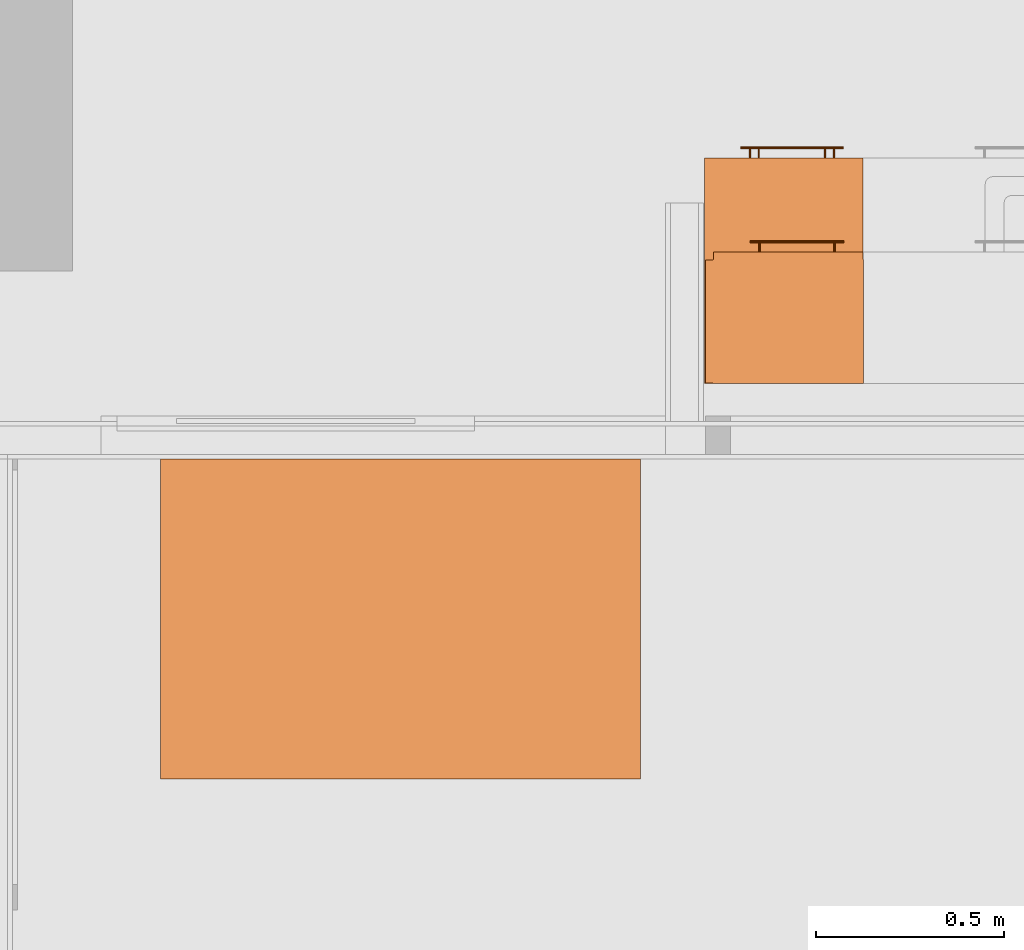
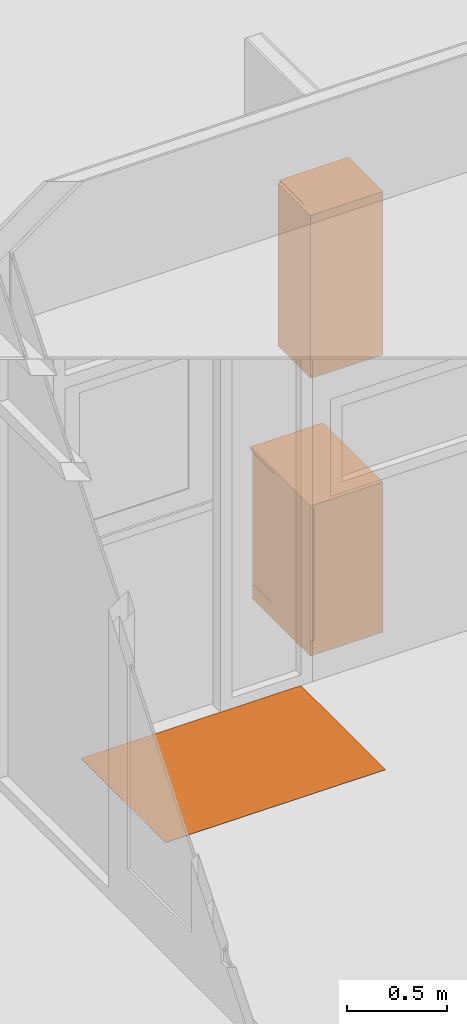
# One storey, part 156 of 167: 3 proxies.
"""IFC2X3 building model written with IfcOpenShell, lengths in millimetres."""

from ifc_helpers import new_model, entity, si_unit, converted_unit, derived_unit, money_unit, direction, frame, origin_with_axes, place, context, subcontext, project, spatial, open_shell, faceted_brep, surface_model, material, type_object, element, save


model = new_model("IFC2X3")

# Units and contexts
model_context = context("Model", 3, precision=0.01, world=origin_with_axes(), true_north=direction((0.0, 1.0)))
plan_context = context("Plan", 3, precision=0.01, world=origin_with_axes(), true_north=direction((0.0, 1.0)))
body_context = subcontext(model_context, "Body", "Model", "MODEL_VIEW")
ifc_project = project(units=[si_unit("LENGTHUNIT", "METRE", prefix="MILLI"), si_unit("AREAUNIT", "SQUARE_METRE"), si_unit("VOLUMEUNIT", "CUBIC_METRE"), converted_unit("PLANEANGLEUNIT", "DEGREE", entity("IfcPlaneAngleMeasure", 0.0174532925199), si_unit("PLANEANGLEUNIT", "RADIAN"), dimensions=[0, 0, 0, 0, 0, 0, 0]), si_unit("SOLIDANGLEUNIT", "STERADIAN"), money_unit("EUR"), converted_unit("TIMEUNIT", "Year", entity("IfcTimeMeasure", 31556926.0), si_unit("TIMEUNIT", "SECOND"), dimensions=[0, 0, 1, 0, 0, 0, 0]), si_unit("MASSUNIT", "GRAM", prefix="KILO"), si_unit("THERMODYNAMICTEMPERATUREUNIT", "DEGREE_CELSIUS"), si_unit("LUMINOUSINTENSITYUNIT", "LUMEN"), si_unit("ENERGYUNIT", "JOULE", prefix="MEGA"), derived_unit("THERMALCONDUCTANCEUNIT", [(si_unit("POWERUNIT", "WATT"), 1), (si_unit("LENGTHUNIT", "METRE"), -1), (si_unit("THERMODYNAMICTEMPERATUREUNIT", "KELVIN"), -1)]), derived_unit("SPECIFICHEATCAPACITYUNIT", [(si_unit("ENERGYUNIT", "JOULE"), 1), (si_unit("MASSUNIT", "GRAM", prefix="KILO"), -1), (si_unit("THERMODYNAMICTEMPERATUREUNIT", "KELVIN"), -1)]), derived_unit("MASSDENSITYUNIT", [(si_unit("MASSUNIT", "GRAM", prefix="KILO"), 1), (si_unit("VOLUMEUNIT", "CUBIC_METRE"), -1)])], contexts=[model_context, plan_context])

# Site, building, storey
site_placement = place(None, origin_with_axes())
site = spatial("IfcSite", under=ifc_project, at=site_placement, Name="Site", CompositionType="ELEMENT")
building_placement = place(site_placement, origin_with_axes())
building = spatial("IfcBuilding", under=site, at=building_placement, Name="Naam gebouw", CompositionType="ELEMENT")
storey_placement = place(building_placement, origin_with_axes())
storey = spatial("IfcBuildingStorey", under=building, at=storey_placement, Name="Begane grond", CompositionType="ELEMENT", Elevation=0.0)

# Proxies
building_element_proxy_type_1 = type_object("IfcBuildingElementProxyType", Name="Kast basis 1D 24", PredefinedType="NOTDEFINED")
proxy_1_placement = place(storey_placement, frame((26403.3441389, 42450.0, 0.0), z_axis=(0.0, 0.0, 1.0), x_axis=(-1.0, 0.0, 0.0)))
element("IfcBuildingElementProxy", 1, at=proxy_1_placement, inside=storey, type_object=building_element_proxy_type_1, Name="__Object-x", context=body_context, shape_type="SurfaceModel", body=[
    faceted_brep([(-40.0, 20.0, 760.0), (-40.0, 20.0, 780.0), (-400.0, 20.0, 780.0), (-400.0, 20.0, 760.0), (-40.0, 580.0, 760.0), (-40.0, 580.0, 780.0), (-400.0, 580.0, 780.0), (-400.0, 580.0, 760.0)], [[[0, 1, 2, 3]], [[4, 5, 1, 0]], [[1, 5, 6, 2]], [[3, 2, 6, 7]], [[0, 3, 7, 4]], [[7, 6, 5, 4]]]),
    faceted_brep([(0.0, 20.0, 0.0), (0.0, 20.0, 90.0), (-420.0, 20.0, 90.0), (-420.0, 20.0, 0.0), (0.0, 600.0, 0.0), (0.0, 600.0, 90.0), (-420.0, 600.0, 90.0), (-420.0, 600.0, 0.0)], [[[0, 1, 2, 3]], [[4, 5, 1, 0]], [[1, 5, 6, 2]], [[3, 2, 6, 7]], [[0, 3, 7, 4]], [[7, 6, 5, 4]]]),
    faceted_brep([(-20.0, 20.0, 880.0), (-20.0, 20.0, 900.0), (-40.0, 20.0, 900.0), (-40.0, 20.0, 880.0), (-20.0, 600.0, 880.0), (-20.0, 600.0, 900.0), (-40.0, 600.0, 900.0), (-400.0, 600.0, 900.0), (-420.0, 600.0, 900.0), (-420.0, 20.0, 900.0), (-400.0, 20.0, 900.0), (-400.0, 20.0, 880.0), (-420.0, 20.0, 880.0), (-420.0, 600.0, 880.0), (-400.0, 600.0, 880.0), (-40.0, 600.0, 880.0)], [[[0, 1, 2, 3]], [[4, 5, 1, 0]], [[1, 5, 6, 7, 8, 9, 10, 2]], [[3, 2, 10, 11]], [[0, 3, 11, 12, 13, 14, 15, 4]], [[15, 6, 5, 4]], [[14, 7, 6, 15]], [[13, 8, 7, 14]], [[12, 9, 8, 13]], [[11, 10, 9, 12]]]),
    faceted_brep([(-20.0, 20.0, 90.0), (-20.0, 20.0, 110.0), (-40.0, 20.0, 110.0), (-40.0, 20.0, 90.0), (-20.0, 600.0, 90.0), (-20.0, 600.0, 110.0), (-40.0, 600.0, 110.0), (-400.0, 600.0, 110.0), (-420.0, 600.0, 110.0), (-420.0, 20.0, 110.0), (-400.0, 20.0, 110.0), (-400.0, 20.0, 90.0), (-420.0, 20.0, 90.0), (-420.0, 600.0, 90.0), (-400.0, 600.0, 90.0), (-40.0, 600.0, 90.0)], [[[0, 1, 2, 3]], [[4, 5, 1, 0]], [[1, 5, 6, 7, 8, 9, 10, 2]], [[3, 2, 10, 11]], [[0, 3, 11, 12, 13, 14, 15, 4]], [[15, 6, 5, 4]], [[14, 7, 6, 15]], [[13, 8, 7, 14]], [[12, 9, 8, 13]], [[11, 10, 9, 12]]]),
    faceted_brep([(-20.0, 20.0, 110.0), (-20.0, 20.0, 880.0), (-40.0, 20.0, 880.0), (-40.0, 20.0, 110.0), (-20.0, 600.0, 110.0), (-20.0, 600.0, 880.0), (-420.0, 600.0, 880.0), (-420.0, 20.0, 880.0), (-400.0, 20.0, 880.0), (-400.0, 580.0, 880.0), (-40.0, 580.0, 880.0), (-40.0, 580.0, 110.0), (-400.0, 580.0, 110.0), (-400.0, 20.0, 110.0), (-420.0, 20.0, 110.0), (-420.0, 600.0, 110.0)], [[[0, 1, 2, 3]], [[4, 5, 1, 0]], [[1, 5, 6, 7, 8, 9, 10, 2]], [[3, 2, 10, 11]], [[0, 3, 11, 12, 13, 14, 15, 4]], [[15, 6, 5, 4]], [[14, 7, 6, 15]], [[13, 8, 7, 14]], [[12, 9, 8, 13]], [[11, 10, 9, 12]]]),
    faceted_brep([(-400.0, 20.0, 410.0), (-400.0, 20.0, 430.0), (-400.0, 580.0, 430.0), (-400.0, 580.0, 410.0), (-40.0, 20.0, 410.0), (-40.0, 20.0, 430.0), (-40.0, 580.0, 430.0), (-40.0, 580.0, 410.0)], [[[0, 1, 2, 3]], [[4, 5, 1, 0]], [[1, 5, 6, 2]], [[3, 2, 6, 7]], [[0, 3, 7, 4]], [[7, 6, 5, 4]]]),
    faceted_brep([(0.0, 0.0, 900.0), (0.0, 0.0, 920.0), (-420.0, 0.0, 920.0), (-420.0, 0.0, 900.0), (0.0, 600.0, 900.0), (0.0, 600.0, 920.0), (-420.0, 600.0, 920.0), (-420.0, 600.0, 900.0)], [[[0, 1, 2, 3]], [[4, 5, 1, 0]], [[1, 5, 6, 2]], [[3, 2, 6, 7]], [[0, 3, 7, 4]], [[7, 6, 5, 4]]]),
    faceted_brep([(-21.5, 20.0, 771.5), (-21.5, 0.0, 771.5), (-418.5, 0.0, 771.5), (-418.5, 20.0, 771.5), (-21.5, 20.0, 898.5), (-21.5, 0.0, 898.5), (-418.5, 0.0, 898.5), (-418.5, 20.0, 898.5)], [[[0, 1, 2, 3]], [[4, 5, 1, 0]], [[1, 5, 6, 2]], [[3, 2, 6, 7]], [[0, 3, 7, 4]], [[7, 6, 5, 4]]]),
    faceted_brep([(-95.0, -28.1480502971, 832.228361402), (-95.0, -27.0, 832.0), (-95.0, -25.8519497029, 832.228361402), (-95.0, -24.8786796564, 832.878679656), (-95.0, -24.2283614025, 833.851949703), (-95.0, -24.0, 835.0), (-95.0, -24.2283614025, 836.148050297), (-95.0, -24.8786796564, 837.121320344), (-95.0, -25.8519497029, 837.771638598), (-95.0, -27.0, 838.0), (-95.0, -28.1480502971, 837.771638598), (-95.0, -29.1213203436, 837.121320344), (-95.0, -29.7716385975, 836.148050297), (-95.0, -30.0, 835.0), (-95.0, -29.7716385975, 833.851949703), (-95.0, -29.1213203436, 832.878679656), (-345.0, -28.1480502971, 832.228361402), (-345.0, -27.0, 832.0), (-345.0, -25.8519497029, 832.228361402), (-345.0, -24.8786796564, 832.878679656), (-345.0, -24.2283614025, 833.851949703), (-345.0, -24.0, 835.0), (-345.0, -24.2283614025, 836.148050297), (-345.0, -24.8786796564, 837.121320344), (-345.0, -25.8519497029, 837.771638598), (-345.0, -27.0, 838.0), (-345.0, -28.1480502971, 837.771638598), (-345.0, -29.1213203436, 837.121320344), (-345.0, -29.7716385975, 836.148050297), (-345.0, -30.0, 835.0), (-345.0, -29.7716385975, 833.851949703), (-345.0, -29.1213203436, 832.878679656)], [[[0, 1, 2, 3, 4, 5, 6, 7, 8, 9, 10, 11, 12, 13, 14, 15]], [[0, 16, 17, 1]], [[1, 17, 18, 2]], [[2, 18, 19, 3]], [[3, 19, 20, 4]], [[4, 20, 21, 5]], [[5, 21, 22, 6]], [[6, 22, 23, 7]], [[7, 23, 24, 8]], [[8, 24, 25, 9]], [[9, 25, 26, 10]], [[10, 26, 27, 11]], [[11, 27, 28, 12]], [[12, 28, 29, 13]], [[13, 29, 30, 14]], [[14, 30, 31, 15]], [[15, 31, 16, 0]], [[16, 31, 30, 29, 28, 27, 26, 25, 24, 23, 22, 21, 20, 19, 18, 17]]]),
    surface_model("IfcShellBasedSurfaceModel", [(-117.690301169, -24.156637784, 834.043291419), (-117.690301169, 0.0, 834.043291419), (-117.5, 0.0, 835.0), (-117.5, -24.0, 835.0), (-118.232233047, -24.5761600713, 833.232233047), (-118.232233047, 0.0, 833.232233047), (-119.043291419, 0.0, 832.690301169), (-120.0, 0.0, 832.5), (-120.956708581, 0.0, 832.690301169), (-121.767766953, 0.0, 833.232233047), (-122.309698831, 0.0, 834.043291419), (-122.5, 0.0, 835.0), (-122.309698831, 0.0, 835.956708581), (-121.767766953, 0.0, 836.767766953), (-120.956708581, 0.0, 837.309698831), (-120.0, 0.0, 837.5), (-119.043291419, 0.0, 837.309698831), (-118.232233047, 0.0, 836.767766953), (-117.690301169, 0.0, 835.956708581), (-117.690301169, -24.156637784, 835.956708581), (-119.043291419, -25.0855049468, 832.690301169), (-120.0, -25.3416876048, 832.5), (-120.956708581, -25.0855049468, 832.690301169), (-121.767766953, -24.5761600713, 833.232233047), (-122.309698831, -24.156637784, 834.043291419), (-122.5, -24.0, 835.0), (-122.309698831, -24.156637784, 835.956708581), (-121.767766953, -24.5761600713, 836.767766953), (-120.956708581, -25.0855049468, 837.309698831), (-120.0, -25.3416876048, 837.5), (-119.043291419, -25.0855049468, 837.309698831), (-118.232233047, -24.5761600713, 836.767766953)], [open_shell([[[0, 1, 2, 3]], [[4, 5, 1, 0]], [[1, 5, 6, 7, 8, 9, 10, 11, 12, 13, 14, 15, 16, 17, 18, 2]], [[3, 2, 18, 19]], [[20, 6, 5, 4]], [[21, 7, 6, 20]], [[22, 8, 7, 21]], [[23, 9, 8, 22]], [[24, 10, 9, 23]], [[25, 11, 10, 24]], [[26, 12, 11, 25]], [[27, 13, 12, 26]], [[28, 14, 13, 27]], [[29, 15, 14, 28]], [[30, 16, 15, 29]], [[31, 17, 16, 30]], [[19, 18, 17, 31]]])]),
    surface_model("IfcShellBasedSurfaceModel", [(-317.690301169, -24.156637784, 834.043291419), (-317.690301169, 0.0, 834.043291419), (-317.5, 0.0, 835.0), (-317.5, -24.0, 835.0), (-318.232233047, -24.5761600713, 833.232233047), (-318.232233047, 0.0, 833.232233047), (-319.043291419, 0.0, 832.690301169), (-320.0, 0.0, 832.5), (-320.956708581, 0.0, 832.690301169), (-321.767766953, 0.0, 833.232233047), (-322.309698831, 0.0, 834.043291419), (-322.5, 0.0, 835.0), (-322.309698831, 0.0, 835.956708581), (-321.767766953, 0.0, 836.767766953), (-320.956708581, 0.0, 837.309698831), (-320.0, 0.0, 837.5), (-319.043291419, 0.0, 837.309698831), (-318.232233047, 0.0, 836.767766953), (-317.690301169, 0.0, 835.956708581), (-317.690301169, -24.156637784, 835.956708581), (-319.043291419, -25.0855049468, 832.690301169), (-320.0, -25.3416876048, 832.5), (-320.956708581, -25.0855049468, 832.690301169), (-321.767766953, -24.5761600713, 833.232233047), (-322.309698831, -24.156637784, 834.043291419), (-322.5, -24.0, 835.0), (-322.309698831, -24.156637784, 835.956708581), (-321.767766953, -24.5761600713, 836.767766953), (-320.956708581, -25.0855049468, 837.309698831), (-320.0, -25.3416876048, 837.5), (-319.043291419, -25.0855049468, 837.309698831), (-318.232233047, -24.5761600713, 836.767766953)], [open_shell([[[0, 1, 2, 3]], [[4, 5, 1, 0]], [[1, 5, 6, 7, 8, 9, 10, 11, 12, 13, 14, 15, 16, 17, 18, 2]], [[3, 2, 18, 19]], [[20, 6, 5, 4]], [[21, 7, 6, 20]], [[22, 8, 7, 21]], [[23, 9, 8, 22]], [[24, 10, 9, 23]], [[25, 11, 10, 24]], [[26, 12, 11, 25]], [[27, 13, 12, 26]], [[28, 14, 13, 27]], [[29, 15, 14, 28]], [[30, 16, 15, 29]], [[31, 17, 16, 30]], [[19, 18, 17, 31]]])]),
    faceted_brep([(-21.5, 20.0, 91.5), (-21.5, 0.0, 91.5), (-418.5, 0.0, 91.5), (-418.5, 20.0, 91.5), (-21.5, 20.0, 768.5), (-21.5, 0.0, 768.5), (-418.5, 0.0, 768.5), (-418.5, 20.0, 768.5)], [[[0, 1, 2, 3]], [[4, 5, 1, 0]], [[1, 5, 6, 2]], [[3, 2, 6, 7]], [[0, 3, 7, 4]], [[7, 6, 5, 4]]]),
    faceted_brep([(-118.5, -28.1480502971, 688.728361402), (-118.5, -27.0, 688.5), (-118.5, -25.8519497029, 688.728361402), (-118.5, -24.8786796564, 689.378679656), (-118.5, -24.2283614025, 690.351949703), (-118.5, -24.0, 691.5), (-118.5, -24.2283614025, 692.648050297), (-118.5, -24.8786796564, 693.621320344), (-118.5, -25.8519497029, 694.271638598), (-118.5, -27.0, 694.5), (-118.5, -28.1480502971, 694.271638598), (-118.5, -29.1213203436, 693.621320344), (-118.5, -29.7716385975, 692.648050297), (-118.5, -30.0, 691.5), (-118.5, -29.7716385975, 690.351949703), (-118.5, -29.1213203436, 689.378679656), (-368.5, -28.1480502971, 688.728361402), (-368.5, -27.0, 688.5), (-368.5, -25.8519497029, 688.728361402), (-368.5, -24.8786796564, 689.378679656), (-368.5, -24.2283614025, 690.351949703), (-368.5, -24.0, 691.5), (-368.5, -24.2283614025, 692.648050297), (-368.5, -24.8786796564, 693.621320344), (-368.5, -25.8519497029, 694.271638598), (-368.5, -27.0, 694.5), (-368.5, -28.1480502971, 694.271638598), (-368.5, -29.1213203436, 693.621320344), (-368.5, -29.7716385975, 692.648050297), (-368.5, -30.0, 691.5), (-368.5, -29.7716385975, 690.351949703), (-368.5, -29.1213203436, 689.378679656)], [[[0, 1, 2, 3, 4, 5, 6, 7, 8, 9, 10, 11, 12, 13, 14, 15]], [[0, 16, 17, 1]], [[1, 17, 18, 2]], [[2, 18, 19, 3]], [[3, 19, 20, 4]], [[4, 20, 21, 5]], [[5, 21, 22, 6]], [[6, 22, 23, 7]], [[7, 23, 24, 8]], [[8, 24, 25, 9]], [[9, 25, 26, 10]], [[10, 26, 27, 11]], [[11, 27, 28, 12]], [[12, 28, 29, 13]], [[13, 29, 30, 14]], [[14, 30, 31, 15]], [[15, 31, 16, 0]], [[16, 31, 30, 29, 28, 27, 26, 25, 24, 23, 22, 21, 20, 19, 18, 17]]]),
    surface_model("IfcShellBasedSurfaceModel", [(-141.190301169, -24.156637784, 690.543291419), (-141.190301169, 0.0, 690.543291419), (-141.0, 0.0, 691.5), (-141.0, -24.0, 691.5), (-141.732233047, -24.5761600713, 689.732233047), (-141.732233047, 0.0, 689.732233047), (-142.543291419, 0.0, 689.190301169), (-143.5, 0.0, 689.0), (-144.456708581, 0.0, 689.190301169), (-145.267766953, 0.0, 689.732233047), (-145.809698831, 0.0, 690.543291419), (-146.0, 0.0, 691.5), (-145.809698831, 0.0, 692.456708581), (-145.267766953, 0.0, 693.267766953), (-144.456708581, 0.0, 693.809698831), (-143.5, 0.0, 694.0), (-142.543291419, 0.0, 693.809698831), (-141.732233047, 0.0, 693.267766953), (-141.190301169, 0.0, 692.456708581), (-141.190301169, -24.156637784, 692.456708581), (-142.543291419, -25.0855049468, 689.190301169), (-143.5, -25.3416876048, 689.0), (-144.456708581, -25.0855049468, 689.190301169), (-145.267766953, -24.5761600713, 689.732233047), (-145.809698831, -24.156637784, 690.543291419), (-146.0, -24.0, 691.5), (-145.809698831, -24.156637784, 692.456708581), (-145.267766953, -24.5761600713, 693.267766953), (-144.456708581, -25.0855049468, 693.809698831), (-143.5, -25.3416876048, 694.0), (-142.543291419, -25.0855049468, 693.809698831), (-141.732233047, -24.5761600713, 693.267766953)], [open_shell([[[0, 1, 2, 3]], [[4, 5, 1, 0]], [[1, 5, 6, 7, 8, 9, 10, 11, 12, 13, 14, 15, 16, 17, 18, 2]], [[3, 2, 18, 19]], [[20, 6, 5, 4]], [[21, 7, 6, 20]], [[22, 8, 7, 21]], [[23, 9, 8, 22]], [[24, 10, 9, 23]], [[25, 11, 10, 24]], [[26, 12, 11, 25]], [[27, 13, 12, 26]], [[28, 14, 13, 27]], [[29, 15, 14, 28]], [[30, 16, 15, 29]], [[31, 17, 16, 30]], [[19, 18, 17, 31]]])]),
    surface_model("IfcShellBasedSurfaceModel", [(-341.190301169, -24.156637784, 690.543291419), (-341.190301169, 0.0, 690.543291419), (-341.0, 0.0, 691.5), (-341.0, -24.0, 691.5), (-341.732233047, -24.5761600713, 689.732233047), (-341.732233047, 0.0, 689.732233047), (-342.543291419, 0.0, 689.190301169), (-343.5, 0.0, 689.0), (-344.456708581, 0.0, 689.190301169), (-345.267766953, 0.0, 689.732233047), (-345.809698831, 0.0, 690.543291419), (-346.0, 0.0, 691.5), (-345.809698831, 0.0, 692.456708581), (-345.267766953, 0.0, 693.267766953), (-344.456708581, 0.0, 693.809698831), (-343.5, 0.0, 694.0), (-342.543291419, 0.0, 693.809698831), (-341.732233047, 0.0, 693.267766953), (-341.190301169, 0.0, 692.456708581), (-341.190301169, -24.156637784, 692.456708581), (-342.543291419, -25.0855049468, 689.190301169), (-343.5, -25.3416876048, 689.0), (-344.456708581, -25.0855049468, 689.190301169), (-345.267766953, -24.5761600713, 689.732233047), (-345.809698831, -24.156637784, 690.543291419), (-346.0, -24.0, 691.5), (-345.809698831, -24.156637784, 692.456708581), (-345.267766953, -24.5761600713, 693.267766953), (-344.456708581, -25.0855049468, 693.809698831), (-343.5, -25.3416876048, 694.0), (-342.543291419, -25.0855049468, 693.809698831), (-341.732233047, -24.5761600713, 693.267766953)], [open_shell([[[0, 1, 2, 3]], [[4, 5, 1, 0]], [[1, 5, 6, 7, 8, 9, 10, 11, 12, 13, 14, 15, 16, 17, 18, 2]], [[3, 2, 18, 19]], [[20, 6, 5, 4]], [[21, 7, 6, 20]], [[22, 8, 7, 21]], [[23, 9, 8, 22]], [[24, 10, 9, 23]], [[25, 11, 10, 24]], [[26, 12, 11, 25]], [[27, 13, 12, 26]], [[28, 14, 13, 27]], [[29, 15, 14, 28]], [[30, 16, 15, 29]], [[31, 17, 16, 30]], [[19, 18, 17, 31]]])]),
    faceted_brep([(-20.0, 598.5, 91.5), (0.0, 598.5, 91.5), (0.0, 21.5, 91.5), (-20.0, 21.5, 91.5), (-20.0, 598.5, 898.5), (0.0, 598.5, 898.5), (0.0, 21.5, 898.5), (-20.0, 21.5, 898.5)], [[[0, 1, 2, 3]], [[4, 5, 1, 0]], [[1, 5, 6, 2]], [[3, 2, 6, 7]], [[0, 3, 7, 4]], [[7, 6, 5, 4]]]),
])
ifc_material = material(Name="_TenW_43_A2 Forbo Impressa")
building_element_proxy_type_2 = type_object("IfcBuildingElementProxyType", Name="_TenW_43_A2 Forbo Impressa 2", PredefinedType="NOTDEFINED")
proxy_2_placement = place(storey_placement, frame((24958.3613252, 40800.0, 0.0), z_axis=(0.0, 0.0, 1.0), x_axis=(1.0, 0.0, 0.0)))
element("IfcBuildingElementProxy", 2, at=proxy_2_placement, inside=storey, type_object=building_element_proxy_type_2, material=ifc_material, Name="23__Vloer-x", context=body_context, shape_type="Brep", body=[
    faceted_brep([(0.0, 0.0, 2.0), (0.0, 0.0, 0.0), (1274.6386748, 0.0, 0.0), (1274.6386748, 0.0, 2.0), (0.0, 850.0, 2.0), (0.0, 850.0, 0.0), (1274.6386748, 850.0, 0.0), (1274.6386748, 850.0, 2.0)], [[[0, 1, 2, 3]], [[4, 5, 1, 0]], [[2, 1, 5, 6]], [[3, 2, 6, 7]], [[4, 0, 3, 7]], [[7, 6, 5, 4]]]),
])
building_element_proxy_type_3 = type_object("IfcBuildingElementProxyType", Name="Kast wand 1D 24", PredefinedType="NOTDEFINED")
proxy_3_placement = place(storey_placement, frame((26405.0000003, 42199.9999946, 200.07308756), z_axis=(0.0, 0.0, 1.0), x_axis=(-1.0, 0.0, 0.0)))
element("IfcBuildingElementProxy", 3, at=proxy_3_placement, inside=storey, type_object=building_element_proxy_type_3, Name="__Object-x", context=body_context, shape_type="SurfaceModel", body=[
    faceted_brep([(-20.0, 20.0, 2480.0), (-20.0, 20.0, 2500.0), (-40.0, 20.0, 2500.0), (-40.0, 20.0, 2480.0), (-20.0, 350.0, 2480.0), (-20.0, 350.0, 2500.0), (-40.0, 350.0, 2500.0), (-400.0, 350.0, 2500.0), (-420.0, 350.0, 2500.0), (-420.0, 20.0, 2500.0), (-400.0, 20.0, 2500.0), (-400.0, 20.0, 2480.0), (-420.0, 20.0, 2480.0), (-420.0, 350.0, 2480.0), (-400.0, 350.0, 2480.0), (-40.0, 350.0, 2480.0)], [[[0, 1, 2, 3]], [[4, 5, 1, 0]], [[1, 5, 6, 7, 8, 9, 10, 2]], [[3, 2, 10, 11]], [[0, 3, 11, 12, 13, 14, 15, 4]], [[15, 6, 5, 4]], [[14, 7, 6, 15]], [[13, 8, 7, 14]], [[12, 9, 8, 13]], [[11, 10, 9, 12]]]),
    faceted_brep([(-20.0, 20.0, 1500.0), (-20.0, 20.0, 1520.0), (-40.0, 20.0, 1520.0), (-40.0, 20.0, 1500.0), (-20.0, 350.0, 1500.0), (-20.0, 350.0, 1520.0), (-40.0, 350.0, 1520.0), (-400.0, 350.0, 1520.0), (-420.0, 350.0, 1520.0), (-420.0, 20.0, 1520.0), (-400.0, 20.0, 1520.0), (-400.0, 20.0, 1500.0), (-420.0, 20.0, 1500.0), (-420.0, 350.0, 1500.0), (-400.0, 350.0, 1500.0), (-40.0, 350.0, 1500.0)], [[[0, 1, 2, 3]], [[4, 5, 1, 0]], [[1, 5, 6, 7, 8, 9, 10, 2]], [[3, 2, 10, 11]], [[0, 3, 11, 12, 13, 14, 15, 4]], [[15, 6, 5, 4]], [[14, 7, 6, 15]], [[13, 8, 7, 14]], [[12, 9, 8, 13]], [[11, 10, 9, 12]]]),
    faceted_brep([(-20.0, 20.0, 1520.0), (-20.0, 20.0, 2480.0), (-40.0, 20.0, 2480.0), (-40.0, 20.0, 1520.0), (-20.0, 350.0, 1520.0), (-20.0, 350.0, 2480.0), (-420.0, 350.0, 2480.0), (-420.0, 20.0, 2480.0), (-400.0, 20.0, 2480.0), (-400.0, 330.0, 2480.0), (-40.0, 330.0, 2480.0), (-40.0, 330.0, 1520.0), (-400.0, 330.0, 1520.0), (-400.0, 20.0, 1520.0), (-420.0, 20.0, 1520.0), (-420.0, 350.0, 1520.0)], [[[0, 1, 2, 3]], [[4, 5, 1, 0]], [[1, 5, 6, 7, 8, 9, 10, 2]], [[3, 2, 10, 11]], [[0, 3, 11, 12, 13, 14, 15, 4]], [[15, 6, 5, 4]], [[14, 7, 6, 15]], [[13, 8, 7, 14]], [[12, 9, 8, 13]], [[11, 10, 9, 12]]]),
    faceted_brep([(-400.0, 20.0, 1980.0), (-400.0, 20.0, 2000.0), (-400.0, 330.0, 2000.0), (-400.0, 330.0, 1980.0), (-40.0, 20.0, 1980.0), (-40.0, 20.0, 2000.0), (-40.0, 330.0, 2000.0), (-40.0, 330.0, 1980.0)], [[[0, 1, 2, 3]], [[4, 5, 1, 0]], [[1, 5, 6, 2]], [[3, 2, 6, 7]], [[0, 3, 7, 4]], [[7, 6, 5, 4]]]),
    faceted_brep([(-21.5, 20.0, 1501.5), (-21.5, 0.0, 1501.5), (-418.5, 0.0, 1501.5), (-418.5, 20.0, 1501.5), (-21.5, 20.0, 2498.5), (-21.5, 0.0, 2498.5), (-418.5, 0.0, 2498.5), (-418.5, 20.0, 2498.5)], [[[0, 1, 2, 3]], [[4, 5, 1, 0]], [[1, 5, 6, 2]], [[3, 2, 6, 7]], [[0, 3, 7, 4]], [[7, 6, 5, 4]]]),
    faceted_brep([(-118.5, -28.1480502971, 1548.7283614), (-118.5, -27.0, 1548.5), (-118.5, -25.8519497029, 1548.7283614), (-118.5, -24.8786796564, 1549.37867966), (-118.5, -24.2283614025, 1550.3519497), (-118.5, -24.0, 1551.5), (-118.5, -24.2283614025, 1552.6480503), (-118.5, -24.8786796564, 1553.62132034), (-118.5, -25.8519497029, 1554.2716386), (-118.5, -27.0, 1554.5), (-118.5, -28.1480502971, 1554.2716386), (-118.5, -29.1213203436, 1553.62132034), (-118.5, -29.7716385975, 1552.6480503), (-118.5, -30.0, 1551.5), (-118.5, -29.7716385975, 1550.3519497), (-118.5, -29.1213203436, 1549.37867966), (-368.5, -28.1480502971, 1548.7283614), (-368.5, -27.0, 1548.5), (-368.5, -25.8519497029, 1548.7283614), (-368.5, -24.8786796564, 1549.37867966), (-368.5, -24.2283614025, 1550.3519497), (-368.5, -24.0, 1551.5), (-368.5, -24.2283614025, 1552.6480503), (-368.5, -24.8786796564, 1553.62132034), (-368.5, -25.8519497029, 1554.2716386), (-368.5, -27.0, 1554.5), (-368.5, -28.1480502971, 1554.2716386), (-368.5, -29.1213203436, 1553.62132034), (-368.5, -29.7716385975, 1552.6480503), (-368.5, -30.0, 1551.5), (-368.5, -29.7716385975, 1550.3519497), (-368.5, -29.1213203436, 1549.37867966)], [[[0, 1, 2, 3, 4, 5, 6, 7, 8, 9, 10, 11, 12, 13, 14, 15]], [[0, 16, 17, 1]], [[1, 17, 18, 2]], [[2, 18, 19, 3]], [[3, 19, 20, 4]], [[4, 20, 21, 5]], [[5, 21, 22, 6]], [[6, 22, 23, 7]], [[7, 23, 24, 8]], [[8, 24, 25, 9]], [[9, 25, 26, 10]], [[10, 26, 27, 11]], [[11, 27, 28, 12]], [[12, 28, 29, 13]], [[13, 29, 30, 14]], [[14, 30, 31, 15]], [[15, 31, 16, 0]], [[16, 31, 30, 29, 28, 27, 26, 25, 24, 23, 22, 21, 20, 19, 18, 17]]]),
    surface_model("IfcShellBasedSurfaceModel", [(-141.190301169, -24.156637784, 1550.54329142), (-141.190301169, 0.0, 1550.54329142), (-141.0, 0.0, 1551.5), (-141.0, -24.0, 1551.5), (-141.732233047, -24.5761600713, 1549.73223305), (-141.732233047, 0.0, 1549.73223305), (-142.543291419, 0.0, 1549.19030117), (-143.5, 0.0, 1549.0), (-144.456708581, 0.0, 1549.19030117), (-145.267766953, 0.0, 1549.73223305), (-145.809698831, 0.0, 1550.54329142), (-146.0, 0.0, 1551.5), (-145.809698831, 0.0, 1552.45670858), (-145.267766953, 0.0, 1553.26776695), (-144.456708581, 0.0, 1553.80969883), (-143.5, 0.0, 1554.0), (-142.543291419, 0.0, 1553.80969883), (-141.732233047, 0.0, 1553.26776695), (-141.190301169, 0.0, 1552.45670858), (-141.190301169, -24.156637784, 1552.45670858), (-142.543291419, -25.0855049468, 1549.19030117), (-143.5, -25.3416876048, 1549.0), (-144.456708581, -25.0855049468, 1549.19030117), (-145.267766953, -24.5761600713, 1549.73223305), (-145.809698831, -24.156637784, 1550.54329142), (-146.0, -24.0, 1551.5), (-145.809698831, -24.156637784, 1552.45670858), (-145.267766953, -24.5761600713, 1553.26776695), (-144.456708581, -25.0855049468, 1553.80969883), (-143.5, -25.3416876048, 1554.0), (-142.543291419, -25.0855049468, 1553.80969883), (-141.732233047, -24.5761600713, 1553.26776695)], [open_shell([[[0, 1, 2, 3]], [[4, 5, 1, 0]], [[1, 5, 6, 7, 8, 9, 10, 11, 12, 13, 14, 15, 16, 17, 18, 2]], [[3, 2, 18, 19]], [[20, 6, 5, 4]], [[21, 7, 6, 20]], [[22, 8, 7, 21]], [[23, 9, 8, 22]], [[24, 10, 9, 23]], [[25, 11, 10, 24]], [[26, 12, 11, 25]], [[27, 13, 12, 26]], [[28, 14, 13, 27]], [[29, 15, 14, 28]], [[30, 16, 15, 29]], [[31, 17, 16, 30]], [[19, 18, 17, 31]]])]),
    surface_model("IfcShellBasedSurfaceModel", [(-341.190301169, -24.156637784, 1550.54329142), (-341.190301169, 0.0, 1550.54329142), (-341.0, 0.0, 1551.5), (-341.0, -24.0, 1551.5), (-341.732233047, -24.5761600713, 1549.73223305), (-341.732233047, 0.0, 1549.73223305), (-342.543291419, 0.0, 1549.19030117), (-343.5, 0.0, 1549.0), (-344.456708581, 0.0, 1549.19030117), (-345.267766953, 0.0, 1549.73223305), (-345.809698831, 0.0, 1550.54329142), (-346.0, 0.0, 1551.5), (-345.809698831, 0.0, 1552.45670858), (-345.267766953, 0.0, 1553.26776695), (-344.456708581, 0.0, 1553.80969883), (-343.5, 0.0, 1554.0), (-342.543291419, 0.0, 1553.80969883), (-341.732233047, 0.0, 1553.26776695), (-341.190301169, 0.0, 1552.45670858), (-341.190301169, -24.156637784, 1552.45670858), (-342.543291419, -25.0855049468, 1549.19030117), (-343.5, -25.3416876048, 1549.0), (-344.456708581, -25.0855049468, 1549.19030117), (-345.267766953, -24.5761600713, 1549.73223305), (-345.809698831, -24.156637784, 1550.54329142), (-346.0, -24.0, 1551.5), (-345.809698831, -24.156637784, 1552.45670858), (-345.267766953, -24.5761600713, 1553.26776695), (-344.456708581, -25.0855049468, 1553.80969883), (-343.5, -25.3416876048, 1554.0), (-342.543291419, -25.0855049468, 1553.80969883), (-341.732233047, -24.5761600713, 1553.26776695)], [open_shell([[[0, 1, 2, 3]], [[4, 5, 1, 0]], [[1, 5, 6, 7, 8, 9, 10, 11, 12, 13, 14, 15, 16, 17, 18, 2]], [[3, 2, 18, 19]], [[20, 6, 5, 4]], [[21, 7, 6, 20]], [[22, 8, 7, 21]], [[23, 9, 8, 22]], [[24, 10, 9, 23]], [[25, 11, 10, 24]], [[26, 12, 11, 25]], [[27, 13, 12, 26]], [[28, 14, 13, 27]], [[29, 15, 14, 28]], [[30, 16, 15, 29]], [[31, 17, 16, 30]], [[19, 18, 17, 31]]])]),
    faceted_brep([(-20.0, 348.5, 1501.5), (0.0, 348.5, 1501.5), (0.0, 21.5, 1501.5), (-20.0, 21.5, 1501.5), (-20.0, 348.5, 2498.5), (0.0, 348.5, 2498.5), (0.0, 21.5, 2498.5), (-20.0, 21.5, 2498.5)], [[[0, 1, 2, 3]], [[4, 5, 1, 0]], [[1, 5, 6, 2]], [[3, 2, 6, 7]], [[0, 3, 7, 4]], [[7, 6, 5, 4]]]),
])

save(model, "model.ifc")
